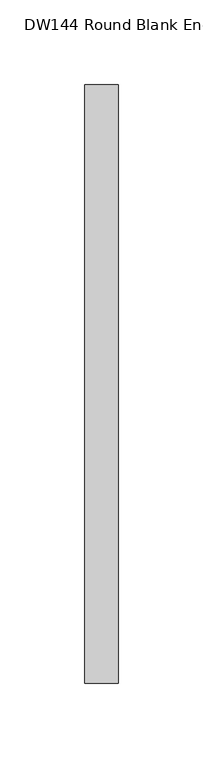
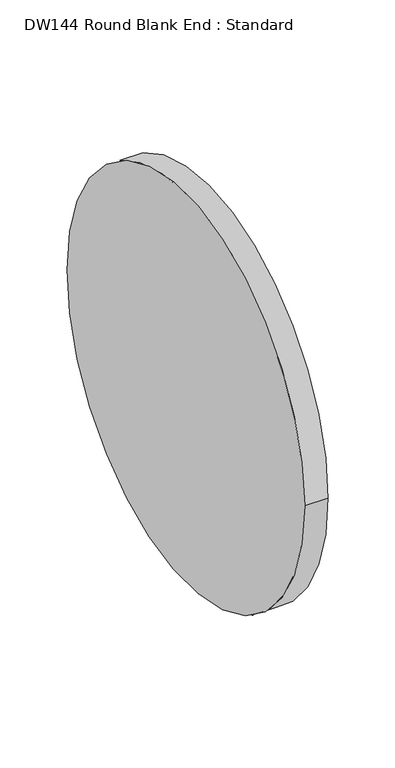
"""IFC4 building model written with IfcOpenShell, lengths in millimetres: duct fitting geometry, DW144 Round Blank End : Standard."""

from ifc_helpers import new_model, si_unit, point, frame, origin, origin_2d, place, context, project, spatial, circle_curve, trimmed, segment, composite_curve, outline, extrude, source, transform, mapped, element, save


def dw144_round_blank_end_standard_a748b1d1(model_context):
    return source(origin(), model_context, "Body", "SweptSolid", [
        extrude(outline(composite_curve([segment(trimmed(circle_curve(origin_2d(), 177.0), [point((-177.0, 0.0))], [point((177.0, 0.0))], False, "CARTESIAN"), True, "CONTINUOUS"), segment(trimmed(circle_curve(origin_2d(), 177.0), [point((177.0, 0.0))], [point((-177.0, 0.0))], False, "CARTESIAN"), True, "CONTINUOUS")], self_intersect=False)), frame((0.0, 0.0, 0.0), z_axis=(1.0, 0.0, 0.0), x_axis=(0.0, 1.0, 0.0)), (0.0, 0.0, 1.0), 20.0),
    ])


if __name__ == "__main__":
    model = new_model("IFC4")
    model_context = context("Model", 3, world=origin())
    ifc_project = project(units=[si_unit("LENGTHUNIT", "METRE", prefix="MILLI")], contexts=[model_context])
    site = spatial("IfcSite", under=ifc_project)
    building = spatial("IfcBuilding", under=site)
    placement = place(None, origin())
    dw144_round_blank_end_standard_shape = dw144_round_blank_end_standard_a748b1d1(model_context)
    element("IfcDuctFitting", 1, ObjectType="DW144 Round Blank End : Standard", at=placement, inside=building, context=model_context, shape_type="MappedRepresentation", body=[
        mapped(dw144_round_blank_end_standard_shape, transform((0.0, 0.0, 0.0), x_axis=(1.0, 0.0, 0.0), y_axis=(0.0, 1.0, 0.0), z_axis=(0.0, 0.0, 1.0))),
    ])
    save(model, "model.ifc")
